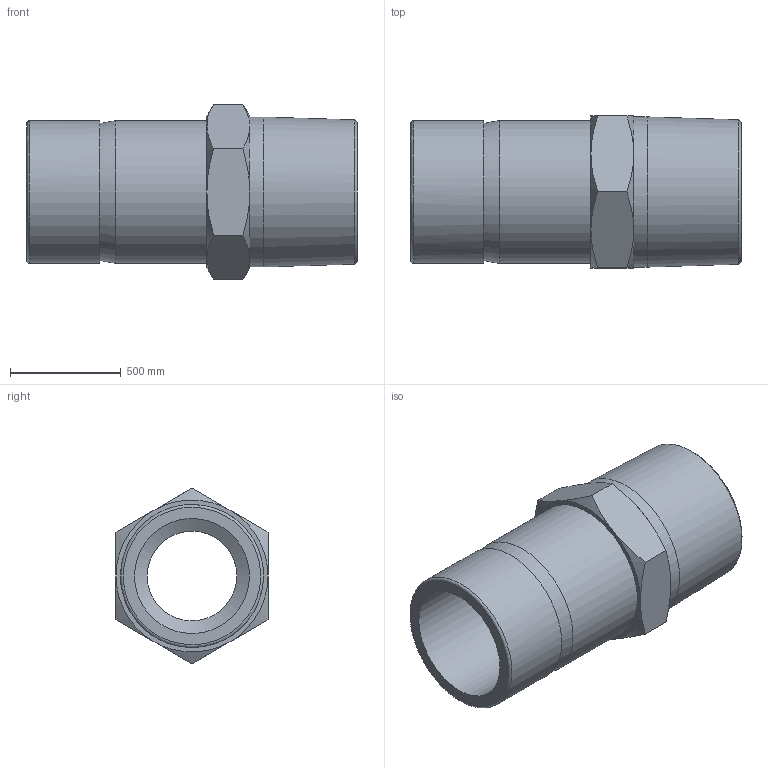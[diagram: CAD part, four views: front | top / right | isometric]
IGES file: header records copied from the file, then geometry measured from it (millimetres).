
Global section: file name: SMA-16-16N; native system: Autodesk Inventor 2016; preprocessor: unknown; author: DESIGNPC2; date: 20151221.104851; units: millimetre
Bounding box: 1490.98 x 685.8 x 791.89 mm (x, y, z)
Volume: 252279315.6 mm3; surface area: 5751496.7 mm2
Topology: 1 solids, 1 shells, 34 faces, 84 edges, 55 vertices
Faces by surface type: bspline 34
